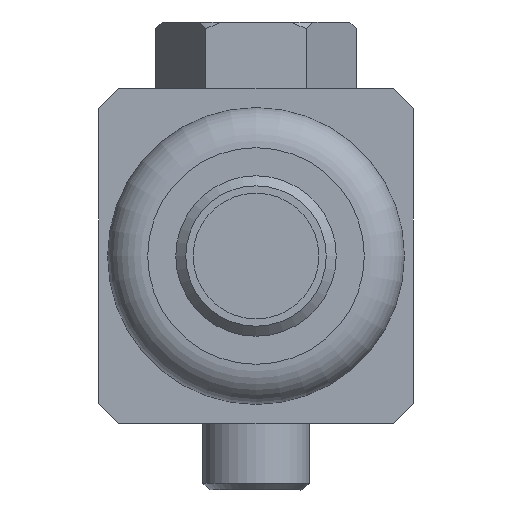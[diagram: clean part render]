
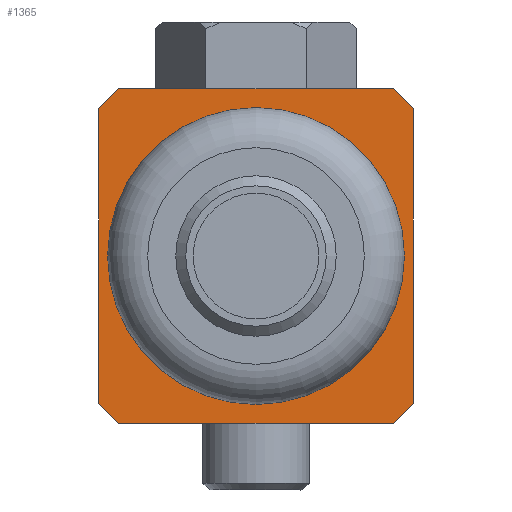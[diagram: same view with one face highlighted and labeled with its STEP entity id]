
A CAD part, front view. The second image highlights one B-rep face of the part: STEP entity #1365.
In plain terms, the highlighted planar face has unit normal (0, -1, 0).
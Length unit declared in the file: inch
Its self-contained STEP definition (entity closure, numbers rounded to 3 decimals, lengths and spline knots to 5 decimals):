
#61=FACE_BOUND('',#347,.T.);
#82=LINE('',#2199,#149);
#88=LINE('',#2211,#155);
#89=LINE('',#2214,#156);
#92=LINE('',#2223,#159);
#93=LINE('',#2226,#160);
#97=LINE('',#2252,#164);
#98=LINE('',#2256,#165);
#99=LINE('',#2257,#166);
#149=VECTOR('',#1740,0.3937);
#155=VECTOR('',#1748,0.3937);
#156=VECTOR('',#1751,0.3937);
#159=VECTOR('',#1760,0.3937);
#160=VECTOR('',#1765,0.3937);
#164=VECTOR('',#1795,0.3937);
#165=VECTOR('',#1800,0.3937);
#166=VECTOR('',#1801,0.3937);
#261=FACE_OUTER_BOUND('',#346,.T.);
#346=EDGE_LOOP('',(#962,#963,#964,#965,#966,#967,#968,#969));
#347=EDGE_LOOP('',(#970,#971));
#435=CIRCLE('',#1501,0.43701);
#436=CIRCLE('',#1502,0.43701);
#539=VERTEX_POINT('',#2195);
#541=VERTEX_POINT('',#2198);
#544=VERTEX_POINT('',#2205);
#546=VERTEX_POINT('',#2209);
#547=VERTEX_POINT('',#2213);
#550=VERTEX_POINT('',#2220);
#555=VERTEX_POINT('',#2237);
#556=VERTEX_POINT('',#2239);
#559=VERTEX_POINT('',#2250);
#560=VERTEX_POINT('',#2255);
#689=EDGE_CURVE('',#539,#541,#82,.T.);
#695=EDGE_CURVE('',#544,#546,#88,.T.);
#696=EDGE_CURVE('',#541,#547,#89,.T.);
#701=EDGE_CURVE('',#547,#550,#92,.T.);
#703=EDGE_CURVE('',#550,#546,#93,.T.);
#709=EDGE_CURVE('',#556,#555,#435,.T.);
#710=EDGE_CURVE('',#555,#556,#436,.T.);
#715=EDGE_CURVE('',#559,#539,#97,.T.);
#717=EDGE_CURVE('',#544,#560,#98,.T.);
#718=EDGE_CURVE('',#559,#560,#99,.T.);
#962=ORIENTED_EDGE('',*,*,#717,.F.);
#963=ORIENTED_EDGE('',*,*,#695,.T.);
#964=ORIENTED_EDGE('',*,*,#703,.F.);
#965=ORIENTED_EDGE('',*,*,#701,.F.);
#966=ORIENTED_EDGE('',*,*,#696,.F.);
#967=ORIENTED_EDGE('',*,*,#689,.F.);
#968=ORIENTED_EDGE('',*,*,#715,.F.);
#969=ORIENTED_EDGE('',*,*,#718,.T.);
#970=ORIENTED_EDGE('',*,*,#709,.T.);
#971=ORIENTED_EDGE('',*,*,#710,.T.);
#1236=PLANE('',#1509);
#1365=ADVANCED_FACE('',(#261,#61),#1236,.T.);
#1501=AXIS2_PLACEMENT_3D('',#2240,#1779,#1780);
#1502=AXIS2_PLACEMENT_3D('',#2241,#1781,#1782);
#1509=AXIS2_PLACEMENT_3D('',#2254,#1798,#1799);
#1740=DIRECTION('',(0.,0.,1.));
#1748=DIRECTION('',(0.,0.,1.));
#1751=DIRECTION('',(0.707,0.,0.707));
#1760=DIRECTION('',(1.,0.,0.));
#1765=DIRECTION('',(0.707,0.,-0.707));
#1779=DIRECTION('center_axis',(0.,1.,0.));
#1780=DIRECTION('ref_axis',(0.581,0.,-0.814));
#1781=DIRECTION('center_axis',(0.,1.,0.));
#1782=DIRECTION('ref_axis',(0.581,0.,-0.814));
#1795=DIRECTION('',(-0.707,0.,0.707));
#1798=DIRECTION('center_axis',(0.,-1.,0.));
#1799=DIRECTION('ref_axis',(0.,0.,
-1.));
#1800=DIRECTION('',(-0.707,0.,-0.707));
#1801=DIRECTION('',(1.,0.,0.));
#2195=CARTESIAN_POINT('',(-1.92255,-1.68852,-0.11953));
#2198=CARTESIAN_POINT('',(-1.92255,-1.68852,0.74661));
#2199=CARTESIAN_POINT('',(-1.92255,-1.68852,-0.11953));
#2205=CARTESIAN_POINT('',(-0.99735,-1.68852,-0.11953));
#2209=CARTESIAN_POINT('',(-0.99735,-1.68852,0.74661));
#2211=CARTESIAN_POINT('',(-0.99735,-1.68852,-0.11953));
#2213=CARTESIAN_POINT('',(-1.86349,-1.68852,0.80566));
#2214=CARTESIAN_POINT('',(-1.92255,-1.68852,0.74661));
#2220=CARTESIAN_POINT('',(-1.05641,-1.68852,0.80566));
#2223=CARTESIAN_POINT('',(-1.86349,-1.68852,0.80566));
#2226=CARTESIAN_POINT('',(-1.05641,-1.68852,0.80566));
#2237=CARTESIAN_POINT('',(-1.45995,-1.68852,0.75055));
#2239=CARTESIAN_POINT('',(-1.45995,-1.68852,-0.12347));
#2240=CARTESIAN_POINT('Origin',(-1.45995,-1.68852,0.31354));
#2241=CARTESIAN_POINT('Origin',(-1.45995,-1.68852,0.31354));
#2250=CARTESIAN_POINT('',(-1.86349,-1.68852,-0.17859));
#2252=CARTESIAN_POINT('',(-1.86349,-1.68852,-0.17859));
#2254=CARTESIAN_POINT('Origin',(-1.45995,-1.68852,-0.17863));
#2255=CARTESIAN_POINT('',(-1.05641,-1.68852,-0.17859));
#2256=CARTESIAN_POINT('',(-0.99735,-1.68852,-0.11953));
#2257=CARTESIAN_POINT('',(-1.86349,-1.68852,-0.17859));
